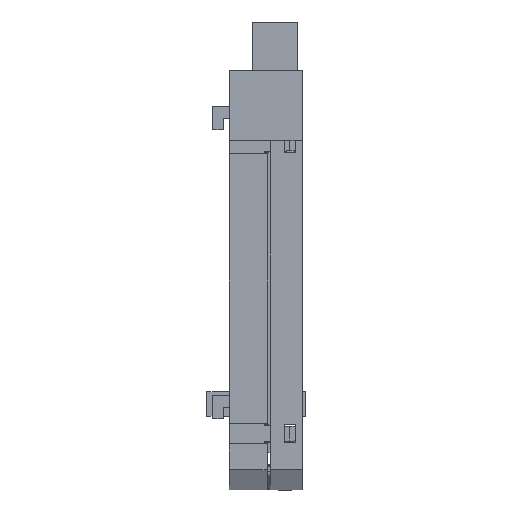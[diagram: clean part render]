
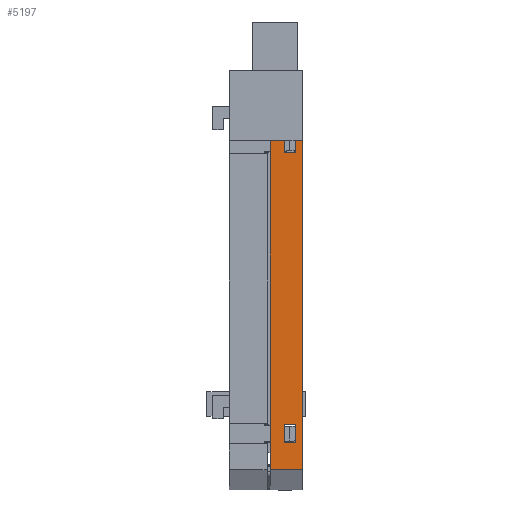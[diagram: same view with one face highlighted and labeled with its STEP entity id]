
A CAD part, front view. The second image highlights one B-rep face of the part: STEP entity #5197.
In plain terms, the highlighted planar face has unit normal (0, -1, 0).
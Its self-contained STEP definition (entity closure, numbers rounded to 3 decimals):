
#426 = VECTOR ( 'NONE', #25393, 1000. ) ;
#743 = DIRECTION ( 'NONE',  ( 0., 0., 1. ) ) ;
#925 = LINE ( 'NONE', #18236, #13882 ) ;
#1206 = LINE ( 'NONE', #13437, #426 ) ;
#1226 = VECTOR ( 'NONE', #27193, 1000. ) ;
#1237 = DIRECTION ( 'NONE',  ( 0., 0., -1. ) ) ;
#1331 = VERTEX_POINT ( 'NONE', #1394 ) ;
#1394 = CARTESIAN_POINT ( 'NONE',  ( 4.4, 0., -60.645 ) ) ;
#1989 = ORIENTED_EDGE ( 'NONE', *, *, #21418, .T. ) ;
#2765 = EDGE_CURVE ( 'NONE', #22638, #18240, #24035, .T. ) ;
#2989 = CARTESIAN_POINT ( 'NONE',  ( 4.4, 0., -57.545 ) ) ;
#3291 = EDGE_CURVE ( 'NONE', #1331, #9217, #1206, .T. ) ;
#3797 = VERTEX_POINT ( 'NONE', #2989 ) ;
#4436 = CARTESIAN_POINT ( 'NONE',  ( 0., 0., -65.25 ) ) ;
#4461 = VECTOR ( 'NONE', #28832, 1000. ) ;
#5041 = AXIS2_PLACEMENT_3D ( 'NONE', #21473, #6919, #23875 ) ;
#5127 = EDGE_CURVE ( 'NONE', #24546, #22638, #9900, .T. ) ;
#5197 = ADVANCED_FACE ( 'NONE', ( #31098, #24656, #6069 ), #19019, .F. ) ;
#5470 = VECTOR ( 'NONE', #7428, 1000. ) ;
#5664 = CARTESIAN_POINT ( 'NONE',  ( 2.4, 0., -60.645 ) ) ;
#5787 = LINE ( 'NONE', #28669, #11486 ) ;
#5837 = CARTESIAN_POINT ( 'NONE',  ( 2.4, 0., -60.645 ) ) ;
#6069 = FACE_OUTER_BOUND ( 'NONE', #9203, .T. ) ;
#6322 = VECTOR ( 'NONE', #14913, 1000. ) ;
#6600 = CARTESIAN_POINT ( 'NONE',  ( 4.4, 0., -10.945 ) ) ;
#6919 = DIRECTION ( 'NONE',  ( 0., 1., 0. ) ) ;
#7071 = LINE ( 'NONE', #12438, #6322 ) ;
#7428 = DIRECTION ( 'NONE',  ( 0., 0., 1. ) ) ;
#8072 = CARTESIAN_POINT ( 'NONE',  ( 4.4, 0., -10.945 ) ) ;
#9203 = EDGE_LOOP ( 'NONE', ( #17895, #18636, #11464, #1989 ) ) ;
#9217 = VERTEX_POINT ( 'NONE', #5837 ) ;
#9761 = EDGE_LOOP ( 'NONE', ( #23628, #29511, #28681, #22456 ) ) ;
#9900 = LINE ( 'NONE', #6600, #23523 ) ;
#10063 = CARTESIAN_POINT ( 'NONE',  ( 2.4, 0., -57.545 ) ) ;
#10101 = EDGE_CURVE ( 'NONE', #21915, #17618, #14742, .T. ) ;
#10413 = CARTESIAN_POINT ( 'NONE',  ( 5.5, 0., -65.25 ) ) ;
#11422 = CARTESIAN_POINT ( 'NONE',  ( 0., 0., 0. ) ) ;
#11464 = ORIENTED_EDGE ( 'NONE', *, *, #29069, .F. ) ;
#11486 = VECTOR ( 'NONE', #14195, 1000. ) ;
#11883 = EDGE_CURVE ( 'NONE', #18240, #15201, #31237, .T. ) ;
#12410 = VERTEX_POINT ( 'NONE', #10063 ) ;
#12438 = CARTESIAN_POINT ( 'NONE',  ( 5.5, 0., 0. ) ) ;
#12754 = DIRECTION ( 'NONE',  ( -1., 0., 0. ) ) ;
#12762 = VERTEX_POINT ( 'NONE', #11422 ) ;
#13116 = EDGE_CURVE ( 'NONE', #15201, #24546, #27061, .T. ) ;
#13174 = EDGE_LOOP ( 'NONE', ( #31474, #30573, #16925, #22957 ) ) ;
#13339 = CARTESIAN_POINT ( 'NONE',  ( 5.5, 0., 0. ) ) ;
#13437 = CARTESIAN_POINT ( 'NONE',  ( 2.4, 0., -60.645 ) ) ;
#13882 = VECTOR ( 'NONE', #1237, 1000. ) ;
#13977 = VECTOR ( 'NONE', #29802, 1000. ) ;
#14195 = DIRECTION ( 'NONE',  ( 1., 0., 0. ) ) ;
#14357 = CARTESIAN_POINT ( 'NONE',  ( 0., 0., 0. ) ) ;
#14742 = LINE ( 'NONE', #10413, #13977 ) ;
#14840 = EDGE_CURVE ( 'NONE', #12410, #3797, #5787, .T. ) ;
#14913 = DIRECTION ( 'NONE',  ( -1., 0., 0. ) ) ;
#15201 = VERTEX_POINT ( 'NONE', #18285 ) ;
#16073 = EDGE_CURVE ( 'NONE', #3797, #1331, #18183, .T. ) ;
#16602 = LINE ( 'NONE', #14357, #4461 ) ;
#16925 = ORIENTED_EDGE ( 'NONE', *, *, #5127, .T. ) ;
#17618 = VERTEX_POINT ( 'NONE', #4436 ) ;
#17895 = ORIENTED_EDGE ( 'NONE', *, *, #23828, .T. ) ;
#18183 = LINE ( 'NONE', #22769, #30281 ) ;
#18236 = CARTESIAN_POINT ( 'NONE',  ( 5.5, 0., 0. ) ) ;
#18240 = VERTEX_POINT ( 'NONE', #22330 ) ;
#18285 = CARTESIAN_POINT ( 'NONE',  ( 2.4, 0., -7.845 ) ) ;
#18371 = EDGE_CURVE ( 'NONE', #9217, #12410, #20604, .T. ) ;
#18636 = ORIENTED_EDGE ( 'NONE', *, *, #10101, .F. ) ;
#19019 = PLANE ( 'NONE',  #5041 ) ;
#19537 = CARTESIAN_POINT ( 'NONE',  ( 2.4, 0., -10.945 ) ) ;
#19836 = VECTOR ( 'NONE', #743, 1000. ) ;
#20604 = LINE ( 'NONE', #5664, #19836 ) ;
#21418 = EDGE_CURVE ( 'NONE', #23151, #12762, #7071, .T. ) ;
#21473 = CARTESIAN_POINT ( 'NONE',  ( 5.5, 0., 0. ) ) ;
#21915 = VERTEX_POINT ( 'NONE', #26927 ) ;
#22320 = CARTESIAN_POINT ( 'NONE',  ( 4.4, 0., -7.845 ) ) ;
#22330 = CARTESIAN_POINT ( 'NONE',  ( 2.4, 0., -10.945 ) ) ;
#22456 = ORIENTED_EDGE ( 'NONE', *, *, #16073, .T. ) ;
#22638 = VERTEX_POINT ( 'NONE', #8072 ) ;
#22769 = CARTESIAN_POINT ( 'NONE',  ( 4.4, 0., -60.645 ) ) ;
#22957 = ORIENTED_EDGE ( 'NONE', *, *, #2765, .T. ) ;
#23151 = VERTEX_POINT ( 'NONE', #13339 ) ;
#23523 = VECTOR ( 'NONE', #25984, 1000. ) ;
#23628 = ORIENTED_EDGE ( 'NONE', *, *, #3291, .T. ) ;
#23828 = EDGE_CURVE ( 'NONE', #12762, #17618, #16602, .T. ) ;
#23875 = DIRECTION ( 'NONE',  ( 0., 0., 1. ) ) ;
#24035 = LINE ( 'NONE', #24821, #30466 ) ;
#24546 = VERTEX_POINT ( 'NONE', #22320 ) ;
#24656 = FACE_BOUND ( 'NONE', #9761, .T. ) ;
#24743 = CARTESIAN_POINT ( 'NONE',  ( 2.4, 0., -7.845 ) ) ;
#24821 = CARTESIAN_POINT ( 'NONE',  ( 2.4, 0., -10.945 ) ) ;
#25197 = DIRECTION ( 'NONE',  ( 0., 0., -1. ) ) ;
#25393 = DIRECTION ( 'NONE',  ( -1., 0., 0. ) ) ;
#25984 = DIRECTION ( 'NONE',  ( 0., 0., -1. ) ) ;
#26927 = CARTESIAN_POINT ( 'NONE',  ( 5.5, 0., -65.25 ) ) ;
#27061 = LINE ( 'NONE', #24743, #1226 ) ;
#27193 = DIRECTION ( 'NONE',  ( 1., 0., 0. ) ) ;
#28669 = CARTESIAN_POINT ( 'NONE',  ( 2.4, 0., -57.545 ) ) ;
#28681 = ORIENTED_EDGE ( 'NONE', *, *, #14840, .T. ) ;
#28832 = DIRECTION ( 'NONE',  ( 0., 0., -1. ) ) ;
#29069 = EDGE_CURVE ( 'NONE', #23151, #21915, #925, .T. ) ;
#29511 = ORIENTED_EDGE ( 'NONE', *, *, #18371, .T. ) ;
#29802 = DIRECTION ( 'NONE',  ( -1., 0., 0. ) ) ;
#30281 = VECTOR ( 'NONE', #25197, 1000. ) ;
#30466 = VECTOR ( 'NONE', #12754, 1000. ) ;
#30573 = ORIENTED_EDGE ( 'NONE', *, *, #13116, .T. ) ;
#31098 = FACE_BOUND ( 'NONE', #13174, .T. ) ;
#31237 = LINE ( 'NONE', #19537, #5470 ) ;
#31474 = ORIENTED_EDGE ( 'NONE', *, *, #11883, .T. ) ;
